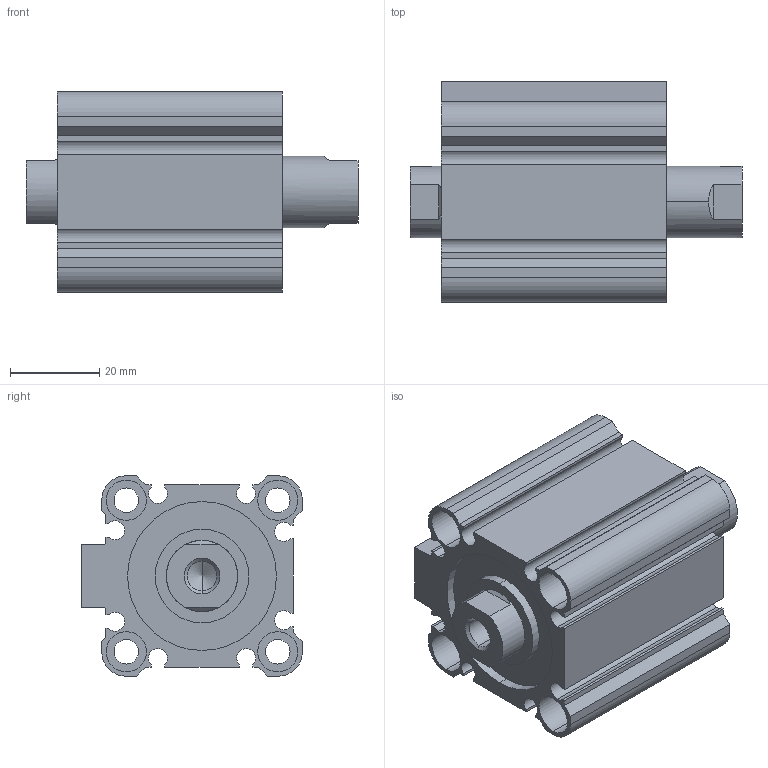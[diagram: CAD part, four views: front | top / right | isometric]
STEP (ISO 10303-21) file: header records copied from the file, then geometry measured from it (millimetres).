
FILE_DESCRIPTION (( 'STEP AP203' ), '1' );
FILE_NAME ('CCMB32-10F-P.STEP', '2020-08-05T11:12:44', ( '' ), ( '' ), 'SwSTEP 2.0', 'SolidWorks 2019', '' );
FILE_SCHEMA (( 'CONFIG_CONTROL_DESIGN' ));
Length unit declared in the file: millimetre
Products named in the file (1): CCMB32-10F-P
Bounding box: 74.5 x 49.5 x 45 mm (x, y, z)
Volume: 76964.6 mm3; surface area: 33014.5 mm2
Topology: 2 solids, 2 shells, 164 faces, 414 edges, 270 vertices
Faces by surface type: plane 78, cylinder 74, cone 12
Entity records: 5025 total; most frequent: DIRECTION 888, CARTESIAN_POINT 869, ORIENTED_EDGE 820, EDGE_CURVE 410, AXIS2_PLACEMENT_3D 321, VERTEX_POINT 270, VECTOR 246, LINE 246
